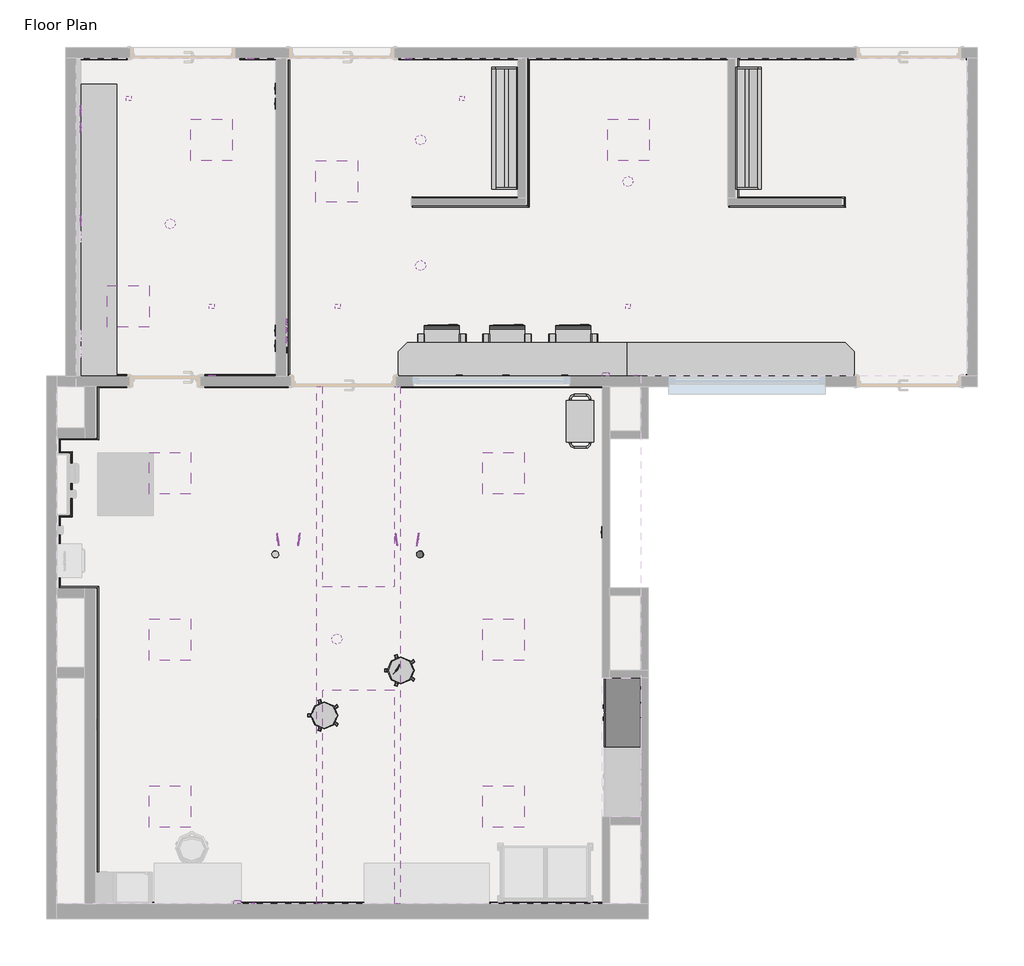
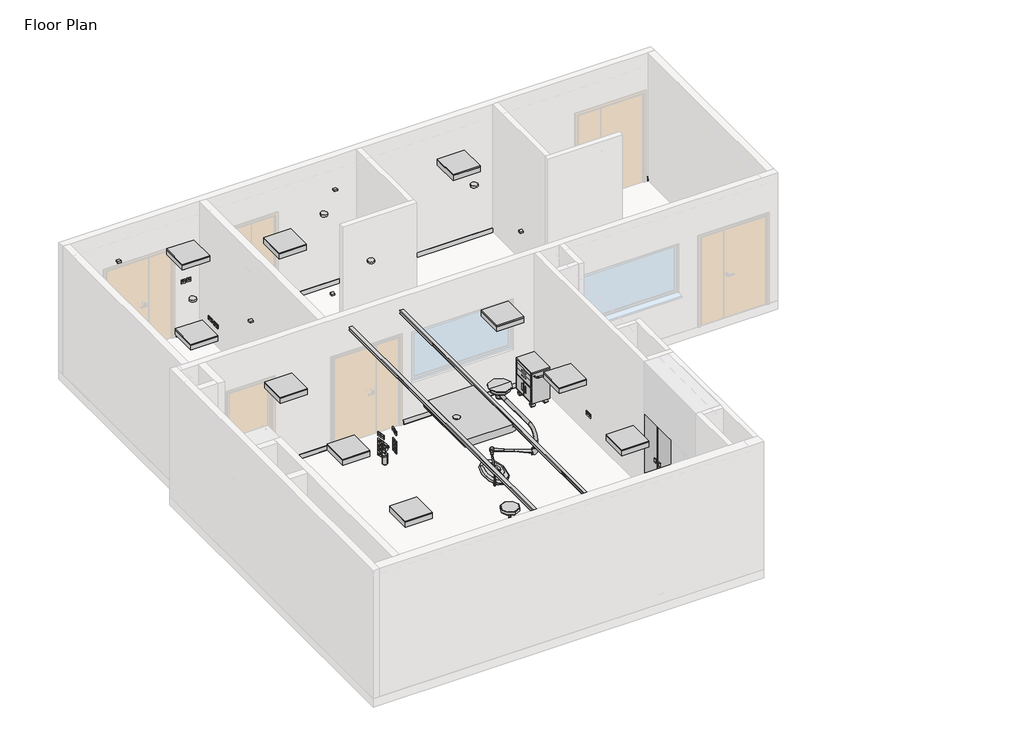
# One storey, part 2 of 2: 37 proxies, 30 flow terminals, 14 furniture elements, 10 light fixtures.
"""IFC4 building model written with IfcOpenShell, lengths in millimetres."""

from ifc_helpers import new_model, si_unit, origin, place, context, project, spatial, transform, mapped, element, save
from components import generic_models_1c4e6ef4, generic_models_4b609abf, electrical_fixtures_90023378, electrical_fixtures_e6a07013, electrical_fixtures_5073e38d, generic_models_4addcc0f, electrical_fixtures_c5f72a11, electrical_fixtures_e3963cad, bimhealth_electrical_data_point_v1_type_1_511d3d56, bimhealth_electrical_smoke_detector_v1_bimhealth_electrical_fe9fcb6c, bimhealth_exhaust_diffuser_v1_bimhealth_exhaust_diffuser_v1_c0e02c9f, med_light_med_light_ebe8f9ca, med_light_med_light_51e73a2f, flow_terminal_e4480bda, flow_terminal_962c3642, furniture_e5edc786, furniture_bcfc0295, furniture_9dfdc119, furniture_95308616, furniture_d395b82f, furniture_bd22f9ff, furniture_bb079bd4, furniture_e14fffc2, bimhealth_scrub_trough_v1_bimhealth_scrub_trough_v1_db082bb5, bimhealth_scrub_trough_v1_bimhealth_scrub_trough_v1_64e28580, bimhealth_trolley_mobile_cart_v1_bimhealth_trolley_mobile_f11bc73b, light_fixture_600x600mm_2_lamps_e1dca80e

model = new_model("IFC4")

# Units and contexts
model_context = context("Model", 3, world=origin())
ifc_project = project(units=[si_unit("LENGTHUNIT", "METRE", prefix="MILLI")], contexts=[model_context])

# Site, building, storey
site = spatial("IfcSite", under=ifc_project)
building = spatial("IfcBuilding", under=site)
storey = spatial("IfcBuildingStorey", under=building, Name="Floor Plan", Elevation=0.0)

# Proxies
placement = place(None, origin())
generic_models_shape = generic_models_1c4e6ef4(model_context)
element("IfcBuildingElementProxy", 1, Name="BIMHealth-Flowmeter_Suction-LOD2A-v1 : BIMHealth-Flowmeter_Suction-LOD2A-v1", ObjectType="BIMHealth-Flowmeter_Suction-LOD2A-v1 : BIMHealth-Flowmeter_Suction-LOD2A-v1", at=placement, inside=storey, context=model_context, shape_type="MappedRepresentation", body=[
    mapped(generic_models_shape, transform((19925.8408391, 2387.4266229, 300.0), x_axis=(0.48480962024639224, 0.8746197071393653, 0.0), y_axis=(-0.8746197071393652, 0.4848096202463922, 0.0), z_axis=(0.0, 0.0, 0.9999999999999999))),
])
generic_models_2_shape = generic_models_4b609abf(model_context)
element("IfcBuildingElementProxy", 2, Name="BIMHealth-Light_Switch-LOD2A-v1 : BIMHealth-Light_Switch-LOD2A-v1", ObjectType="BIMHealth-Light_Switch-LOD2A-v1 : BIMHealth-Light_Switch-LOD2A-v1", at=placement, inside=storey, context=model_context, shape_type="MappedRepresentation", body=[
    mapped(generic_models_2_shape, transform((17467.1336188, 9541.1029988, 0.0), x_axis=(-1.0000000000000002, 0.0, 0.0), y_axis=(0.0, -1.0000000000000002, 0.0), z_axis=(0.0, 0.0, 1.0))),
])
element("IfcBuildingElementProxy", 3, Name="BIMHealth-Light_Switch-LOD2A-v1 : BIMHealth-Light_Switch-LOD2A-v1", ObjectType="BIMHealth-Light_Switch-LOD2A-v1 : BIMHealth-Light_Switch-LOD2A-v1", at=placement, inside=storey, context=model_context, shape_type="MappedRepresentation", body=[
    mapped(generic_models_2_shape, transform((19742.1336188, 9541.1029988, 0.0), x_axis=(-1.0, 0.0, 0.0), y_axis=(0.0, -1.0, 0.0), z_axis=(0.0, 0.0, 1.0))),
])
element("IfcBuildingElementProxy", 4, Name="BIMHealth-Light_Switch-LOD2A-v1 : BIMHealth-Light_Switch-LOD2A-v1", ObjectType="BIMHealth-Light_Switch-LOD2A-v1 : BIMHealth-Light_Switch-LOD2A-v1", at=placement, inside=storey, context=model_context, shape_type="MappedRepresentation", body=[
    mapped(generic_models_2_shape, transform((16912.1336188, 4966.1026634, 0.0), x_axis=(1.0, 0.0, 0.0), y_axis=(0.0, 1.0, 0.0), z_axis=(0.0, 0.0, 1.0))),
])
element("IfcBuildingElementProxy", 5, Name="BIMHealth-Light_Switch-LOD2A-v1 : BIMHealth-Light_Switch-LOD2A-v1", ObjectType="BIMHealth-Light_Switch-LOD2A-v1 : BIMHealth-Light_Switch-LOD2A-v1", at=placement, inside=storey, context=model_context, shape_type="MappedRepresentation", body=[
    mapped(generic_models_2_shape, transform((17982.1336188, 5486.1026634, 0.0), x_axis=(0.0, -1.0000000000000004, 0.0), y_axis=(1.0000000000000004, 0.0, 0.0), z_axis=(0.0, 0.0, 1.0))),
])
element("IfcBuildingElementProxy", 6, Name="BIMHealth-Light_Switch-LOD2A-v1 : BIMHealth-Light_Switch-LOD2A-v1", ObjectType="BIMHealth-Light_Switch-LOD2A-v1 : BIMHealth-Light_Switch-LOD2A-v1", at=placement, inside=storey, context=model_context, shape_type="MappedRepresentation", body=[
    mapped(generic_models_2_shape, transform((17982.1336188, 5626.1026634, 0.0), x_axis=(0.0, -1.0, 0.0), y_axis=(1.0, 0.0, 0.0), z_axis=(0.0, 0.0, 1.0))),
])
element("IfcBuildingElementProxy", 7, Name="BIMHealth-Light_Switch-LOD2A-v1 : BIMHealth-Light_Switch-LOD2A-v1", ObjectType="BIMHealth-Light_Switch-LOD2A-v1 : BIMHealth-Light_Switch-LOD2A-v1", at=placement, inside=storey, context=model_context, shape_type="MappedRepresentation", body=[
    mapped(generic_models_2_shape, transform((17982.1336188, 5746.1026634, 0.0), x_axis=(0.0, -1.0, 0.0), y_axis=(1.0, 0.0, 0.0), z_axis=(0.0, 0.0, 1.0))),
])
electrical_fixtures_shape = electrical_fixtures_90023378(model_context)
element("IfcBuildingElementProxy", 8, Name="BIMHealth-Fish_Switch-LOD2A-v1 : BIMHealth-Fish_Switch-LOD2A-v1", ObjectType="BIMHealth-Fish_Switch-LOD2A-v1 : BIMHealth-Fish_Switch-LOD2A-v1", at=placement, inside=storey, context=model_context, shape_type="MappedRepresentation", body=[
    mapped(electrical_fixtures_shape, transform((17977.1336188, 5341.1026634, 0.0), x_axis=(0.0, -1.0, 0.0), y_axis=(1.0, 0.0, 0.0), z_axis=(0.0, 0.0, 1.0))),
])
element("IfcBuildingElementProxy", 9, Name="BIMHealth-Fish_Switch-LOD2A-v1 : BIMHealth-Fish_Switch-LOD2A-v1", ObjectType="BIMHealth-Fish_Switch-LOD2A-v1 : BIMHealth-Fish_Switch-LOD2A-v1", at=placement, inside=storey, context=model_context, shape_type="MappedRepresentation", body=[
    mapped(electrical_fixtures_shape, transform((17597.1336188, 9541.1029988, 0.0), x_axis=(-1.0, 0.0, 0.0), y_axis=(0.0, -1.0, 0.0), z_axis=(0.0, 0.0, 1.0))),
])
element("IfcBuildingElementProxy", 10, Name="BIMHealth-Fish_Switch-LOD2A-v1 : BIMHealth-Fish_Switch-LOD2A-v1", ObjectType="BIMHealth-Fish_Switch-LOD2A-v1 : BIMHealth-Fish_Switch-LOD2A-v1", at=placement, inside=storey, context=model_context, shape_type="MappedRepresentation", body=[
    mapped(electrical_fixtures_shape, transform((19887.1336188, 9541.1029988, 0.0), x_axis=(-1.0, 0.0, 0.0), y_axis=(0.0, -1.0, 0.0), z_axis=(0.0, 0.0, 1.0))),
])
electrical_fixtures_2_shape = electrical_fixtures_e6a07013(model_context)
element("IfcBuildingElementProxy", 11, Name="BIMHealth-Code_Blue-Non_Wall_Mounted-LOD2A-v1 : BIMHealth-Code_Blue-Non_Wall_Mounted-LOD2A-v1", ObjectType="BIMHealth-Code_Blue-Non_Wall_Mounted-LOD2A-v1 : BIMHealth-Code_Blue-Non_Wall_Mounted-LOD2A-v1", at=placement, inside=storey, context=model_context, shape_type="MappedRepresentation", body=[
    mapped(electrical_fixtures_2_shape, transform((22582.1336188, 4966.1026634, 0.0), x_axis=(-1.0000000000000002, 0.0, 0.0), y_axis=(0.0, -1.0000000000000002, 0.0), z_axis=(0.0, 0.0, 1.0))),
])
element("IfcBuildingElementProxy", 12, Name="BIMHealth-Code_Blue-Non_Wall_Mounted-LOD2A-v1 : BIMHealth-Code_Blue-Non_Wall_Mounted-LOD2A-v1", ObjectType="BIMHealth-Code_Blue-Non_Wall_Mounted-LOD2A-v1 : BIMHealth-Code_Blue-Non_Wall_Mounted-LOD2A-v1", at=placement, inside=storey, context=model_context, shape_type="MappedRepresentation", body=[
    mapped(electrical_fixtures_2_shape, transform((17278.7884839, -2633.8974181, 5.5970517), x_axis=(-1.0000000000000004, 0.0, 0.0), y_axis=(0.0, -1.0000000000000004, 0.0), z_axis=(0.0, 0.0, 1.0))),
])
electrical_fixtures_3_shape = electrical_fixtures_5073e38d(model_context)
element("IfcBuildingElementProxy", 13, Name="BIMHealth-Cancel_Button-Non_Wall_Mounted-LOD2A-v1 : BIMHealth-Cancel_Button-Non_Wall_Mounted-LOD2A-v1", ObjectType="BIMHealth-Cancel_Button-Non_Wall_Mounted-LOD2A-v1 : BIMHealth-Cancel_Button-Non_Wall_Mounted-LOD2A-v1", at=placement, inside=storey, context=model_context, shape_type="MappedRepresentation", body=[
    mapped(electrical_fixtures_3_shape, transform((23029.5477239, 4966.1026634, 0.0), x_axis=(-1.0000000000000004, 0.0, 0.0), y_axis=(0.0, -1.0000000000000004, 0.0), z_axis=(0.0, 0.0, 1.0))),
])
element("IfcBuildingElementProxy", 14, Name="BIMHealth-Cancel_Button-Non_Wall_Mounted-LOD2A-v1 : BIMHealth-Cancel_Button-Non_Wall_Mounted-LOD2A-v1", ObjectType="BIMHealth-Cancel_Button-Non_Wall_Mounted-LOD2A-v1 : BIMHealth-Cancel_Button-Non_Wall_Mounted-LOD2A-v1", at=placement, inside=storey, context=model_context, shape_type="MappedRepresentation", body=[
    mapped(electrical_fixtures_3_shape, transform((17529.3865159, -2633.8974181, 5.5970517), x_axis=(-1.0000000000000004, 0.0, 0.0), y_axis=(0.0, -1.0000000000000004, 0.0), z_axis=(0.0, 0.0, 1.0))),
])
generic_models_3_shape = generic_models_4addcc0f(model_context)
element("IfcBuildingElementProxy", 15, Name="BIMHealth-Flowmeter_Suction-LOD2A-v1 : BIMHealth-Flowmeter_Suction-LOD2A-v1", ObjectType="BIMHealth-Flowmeter_Suction-LOD2A-v1 : BIMHealth-Flowmeter_Suction-LOD2A-v1", at=placement, inside=storey, context=model_context, shape_type="MappedRepresentation", body=[
    mapped(generic_models_3_shape, transform((17807.1607284, 2387.4266229, 300.0), x_axis=(-0.4848096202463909, 0.874619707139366, 0.0), y_axis=(-0.8746197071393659, -0.48480962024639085, 0.0), z_axis=(0.0, 0.0, 0.9999999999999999))),
])
electrical_fixtures_4_shape = electrical_fixtures_c5f72a11(model_context)
element("IfcBuildingElementProxy", 16, Name="BIMHealth-Electrical_Data_Point-Non_Wall_Hosted-LOD2A-v1 : BIMHealth-Electrical_Data_Point-Non_Wall_Hosted-LOD2A-v1", ObjectType="BIMHealth-Electrical_Data_Point-Non_Wall_Hosted-LOD2A-v1 : BIMHealth-Electrical_Data_Point-Non_Wall_Hosted-LOD2A-v1", at=placement, inside=storey, context=model_context, shape_type="MappedRepresentation", body=[
    mapped(electrical_fixtures_4_shape, transform((17874.3128075, 2566.4536654, 900.0), x_axis=(-0.14499274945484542, 0.989432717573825, 0.0), y_axis=(-0.9894327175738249, -0.1449927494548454, 0.0), z_axis=(0.0, 0.0, 0.9999999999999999))),
])
element("IfcBuildingElementProxy", 17, Name="BIMHealth-Electrical_Data_Point-Non_Wall_Hosted-LOD2A-v1 : BIMHealth-Electrical_Data_Point-Non_Wall_Hosted-LOD2A-v1", ObjectType="BIMHealth-Electrical_Data_Point-Non_Wall_Hosted-LOD2A-v1 : BIMHealth-Electrical_Data_Point-Non_Wall_Hosted-LOD2A-v1", at=placement, inside=storey, context=model_context, shape_type="MappedRepresentation", body=[
    mapped(electrical_fixtures_4_shape, transform((17859.6039766, 2663.586799, 900.0), x_axis=(-0.14499274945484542, 0.989432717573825, 0.0), y_axis=(-0.9894327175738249, -0.1449927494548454, 0.0), z_axis=(0.0, 0.0, 0.9999999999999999))),
])
element("IfcBuildingElementProxy", 18, Name="BIMHealth-Electrical_Data_Point-Non_Wall_Hosted-LOD2A-v1 : BIMHealth-Electrical_Data_Point-Non_Wall_Hosted-LOD2A-v1", ObjectType="BIMHealth-Electrical_Data_Point-Non_Wall_Hosted-LOD2A-v1 : BIMHealth-Electrical_Data_Point-Non_Wall_Hosted-LOD2A-v1", at=placement, inside=storey, context=model_context, shape_type="MappedRepresentation", body=[
    mapped(electrical_fixtures_4_shape, transform((19581.1127277, 2563.9536654, 900.0), x_axis=(-0.14499274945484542, 0.989432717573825, 0.0), y_axis=(-0.9894327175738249, -0.1449927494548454, 0.0), z_axis=(0.0, 0.0, 0.9999999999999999))),
])
element("IfcBuildingElementProxy", 19, Name="BIMHealth-Electrical_Data_Point-Non_Wall_Hosted-LOD2A-v1 : BIMHealth-Electrical_Data_Point-Non_Wall_Hosted-LOD2A-v1", ObjectType="BIMHealth-Electrical_Data_Point-Non_Wall_Hosted-LOD2A-v1 : BIMHealth-Electrical_Data_Point-Non_Wall_Hosted-LOD2A-v1", at=placement, inside=storey, context=model_context, shape_type="MappedRepresentation", body=[
    mapped(electrical_fixtures_4_shape, transform((19566.4038967, 2661.086799, 900.0), x_axis=(-0.14499274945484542, 0.989432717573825, 0.0), y_axis=(-0.9894327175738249, -0.1449927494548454, 0.0), z_axis=(0.0, 0.0, 0.9999999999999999))),
])
electrical_fixtures_5_shape = electrical_fixtures_e3963cad(model_context)
element("IfcBuildingElementProxy", 20, Name="BIMHealth-Electrical_Data_Point-Non_Wall_Hosted-LOD2A-v1 : BIMHealth-Electrical_Data_Point-Non_Wall_Hosted-LOD2A-v1", ObjectType="BIMHealth-Electrical_Data_Point-Non_Wall_Hosted-LOD2A-v1 : BIMHealth-Electrical_Data_Point-Non_Wall_Hosted-LOD2A-v1", at=placement, inside=storey, context=model_context, shape_type="MappedRepresentation", body=[
    mapped(electrical_fixtures_5_shape, transform((19863.68876, 2563.9536654, 900.0), x_axis=(0.14499274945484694, 0.9894327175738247, 0.0), y_axis=(-0.9894327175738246, 0.14499274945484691, 0.0), z_axis=(0.0, 0.0, 0.9999999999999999))),
])
element("IfcBuildingElementProxy", 21, Name="BIMHealth-Electrical_Data_Point-Non_Wall_Hosted-LOD2A-v1 : BIMHealth-Electrical_Data_Point-Non_Wall_Hosted-LOD2A-v1", ObjectType="BIMHealth-Electrical_Data_Point-Non_Wall_Hosted-LOD2A-v1 : BIMHealth-Electrical_Data_Point-Non_Wall_Hosted-LOD2A-v1", at=placement, inside=storey, context=model_context, shape_type="MappedRepresentation", body=[
    mapped(electrical_fixtures_5_shape, transform((19878.397591, 2661.086799, 900.0), x_axis=(0.14499274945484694, 0.9894327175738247, 0.0), y_axis=(-0.9894327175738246, 0.14499274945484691, 0.0), z_axis=(0.0, 0.0, 0.9999999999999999))),
])
element("IfcBuildingElementProxy", 22, Name="BIMHealth-Electrical_Data_Point-Non_Wall_Hosted-LOD2A-v1 : BIMHealth-Electrical_Data_Point-Non_Wall_Hosted-LOD2A-v1", ObjectType="BIMHealth-Electrical_Data_Point-Non_Wall_Hosted-LOD2A-v1 : BIMHealth-Electrical_Data_Point-Non_Wall_Hosted-LOD2A-v1", at=placement, inside=storey, context=model_context, shape_type="MappedRepresentation", body=[
    mapped(electrical_fixtures_5_shape, transform((18150.5081056, 2566.4536654, 900.0), x_axis=(0.14499274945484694, 0.9894327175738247, 0.0), y_axis=(-0.9894327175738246, 0.14499274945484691, 0.0), z_axis=(0.0, 0.0, 0.9999999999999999))),
])
element("IfcBuildingElementProxy", 23, Name="BIMHealth-Electrical_Data_Point-Non_Wall_Hosted-LOD2A-v1 : BIMHealth-Electrical_Data_Point-Non_Wall_Hosted-LOD2A-v1", ObjectType="BIMHealth-Electrical_Data_Point-Non_Wall_Hosted-LOD2A-v1 : BIMHealth-Electrical_Data_Point-Non_Wall_Hosted-LOD2A-v1", at=placement, inside=storey, context=model_context, shape_type="MappedRepresentation", body=[
    mapped(electrical_fixtures_5_shape, transform((18165.2169366, 2663.586799, 900.0), x_axis=(0.14499274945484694, 0.9894327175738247, 0.0), y_axis=(-0.9894327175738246, 0.14499274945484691, 0.0), z_axis=(0.0, 0.0, 0.9999999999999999))),
])
bimhealth_electrical_data_point_v1_type_1_shape = bimhealth_electrical_data_point_v1_type_1_511d3d56(model_context)
element("IfcBuildingElementProxy", 24, Name="BIMHealth-Electrical-Data_Point-v1 : Type 1", ObjectType="BIMHealth-Electrical-Data_Point-v1 : Type 1", at=placement, inside=storey, context=model_context, shape_type="MappedRepresentation", body=[
    mapped(bimhealth_electrical_data_point_v1_type_1_shape, transform((20302.1336188, 4891.1026634, 0.0), x_axis=(1.0, 0.0, 0.0), y_axis=(0.0, 1.0, 0.0), z_axis=(0.0, 0.0, 1.0))),
])
element("IfcBuildingElementProxy", 25, Name="BIMHealth-Electrical-Data_Point-v1 : Type 1", ObjectType="BIMHealth-Electrical-Data_Point-v1 : Type 1", at=placement, inside=storey, context=model_context, shape_type="MappedRepresentation", body=[
    mapped(bimhealth_electrical_data_point_v1_type_1_shape, transform((20977.1336188, 4891.1026634, 0.0), x_axis=(1.0, 0.0, 0.0), y_axis=(0.0, 1.0, 0.0), z_axis=(0.0, 0.0, 1.0))),
])
element("IfcBuildingElementProxy", 26, Name="BIMHealth-Electrical-Data_Point-v1 : Type 1", ObjectType="BIMHealth-Electrical-Data_Point-v1 : Type 1", at=placement, inside=storey, context=model_context, shape_type="MappedRepresentation", body=[
    mapped(bimhealth_electrical_data_point_v1_type_1_shape, transform((21822.1336188, 4891.1026634, 0.0), x_axis=(1.0, 0.0, 0.0), y_axis=(0.0, 1.0, 0.0), z_axis=(0.0, 0.0, 1.0))),
])
bimhealth_electrical_smoke_detector_v1_bimhealth_electrical_shape = bimhealth_electrical_smoke_detector_v1_bimhealth_electrical_fe9fcb6c(model_context)
element("IfcBuildingElementProxy", 27, Name="BIMHealth-Electrical-Smoke_Detector-v1 : BIMHealth-Electrical-Smoke_Detector-v1", ObjectType="BIMHealth-Electrical-Smoke_Detector-v1 : BIMHealth-Electrical-Smoke_Detector-v1", at=placement, inside=storey, context=model_context, shape_type="MappedRepresentation", body=[
    mapped(bimhealth_electrical_smoke_detector_v1_bimhealth_electrical_shape, transform((18710.834619, 1177.4095416, 261.6), x_axis=(1.0, 0.0, 0.0), y_axis=(0.0, 1.0, 0.0), z_axis=(0.0, 0.0, 1.0))),
])
element("IfcBuildingElementProxy", 28, Name="BIMHealth-Electrical-Smoke_Detector-v1 : BIMHealth-Electrical-Smoke_Detector-v1", ObjectType="BIMHealth-Electrical-Smoke_Detector-v1 : BIMHealth-Electrical-Smoke_Detector-v1", at=placement, inside=storey, context=model_context, shape_type="MappedRepresentation", body=[
    mapped(bimhealth_electrical_smoke_detector_v1_bimhealth_electrical_shape, transform((16312.333647, 7156.1001399, 261.6), x_axis=(1.0, 0.0, 0.0), y_axis=(0.0, 1.0, 0.0), z_axis=(0.0, 0.0, 1.0))),
])
element("IfcBuildingElementProxy", 29, Name="BIMHealth-Electrical-Smoke_Detector-v1 : BIMHealth-Electrical-Smoke_Detector-v1", ObjectType="BIMHealth-Electrical-Smoke_Detector-v1 : BIMHealth-Electrical-Smoke_Detector-v1", at=placement, inside=storey, context=model_context, shape_type="MappedRepresentation", body=[
    mapped(bimhealth_electrical_smoke_detector_v1_bimhealth_electrical_shape, transform((19917.1339303, 8366.1001399, 261.6), x_axis=(1.0, 0.0, 0.0), y_axis=(0.0, 1.0, 0.0), z_axis=(0.0, 0.0, 1.0))),
])
element("IfcBuildingElementProxy", 30, Name="BIMHealth-Electrical-Smoke_Detector-v1 : BIMHealth-Electrical-Smoke_Detector-v1", ObjectType="BIMHealth-Electrical-Smoke_Detector-v1 : BIMHealth-Electrical-Smoke_Detector-v1", at=placement, inside=storey, context=model_context, shape_type="MappedRepresentation", body=[
    mapped(bimhealth_electrical_smoke_detector_v1_bimhealth_electrical_shape, transform((19917.1339303, 6556.1001399, 261.6), x_axis=(1.0, 0.0, 0.0), y_axis=(0.0, 1.0, 0.0), z_axis=(0.0, 0.0, 1.0))),
])
element("IfcBuildingElementProxy", 31, Name="BIMHealth-Electrical-Smoke_Detector-v1 : BIMHealth-Electrical-Smoke_Detector-v1", ObjectType="BIMHealth-Electrical-Smoke_Detector-v1 : BIMHealth-Electrical-Smoke_Detector-v1", at=placement, inside=storey, context=model_context, shape_type="MappedRepresentation", body=[
    mapped(bimhealth_electrical_smoke_detector_v1_bimhealth_electrical_shape, transform((22902.333779, 7766.1001399, 261.6), x_axis=(1.0, 0.0, 0.0), y_axis=(0.0, 1.0, 0.0), z_axis=(0.0, 0.0, 1.0))),
])
bimhealth_exhaust_diffuser_v1_bimhealth_exhaust_diffuser_v1_shape = bimhealth_exhaust_diffuser_v1_bimhealth_exhaust_diffuser_v1_c0e02c9f(model_context)
element("IfcBuildingElementProxy", 32, Name="BIMHealth-Exhaust_Diffuser-v1 : BIMHealth-Exhaust_Diffuser-v1", ObjectType="BIMHealth-Exhaust_Diffuser-v1 : BIMHealth-Exhaust_Diffuser-v1", at=placement, inside=storey, context=model_context, shape_type="MappedRepresentation", body=[
    mapped(bimhealth_exhaust_diffuser_v1_bimhealth_exhaust_diffuser_v1_shape, transform((16912.1336188, 5966.1026634, 261.6), x_axis=(1.0, 0.0, 0.0), y_axis=(0.0, 1.0, 0.0), z_axis=(0.0, 0.0, 1.0))),
])
element("IfcBuildingElementProxy", 33, Name="BIMHealth-Exhaust_Diffuser-v1 : BIMHealth-Exhaust_Diffuser-v1", ObjectType="BIMHealth-Exhaust_Diffuser-v1 : BIMHealth-Exhaust_Diffuser-v1", at=placement, inside=storey, context=model_context, shape_type="MappedRepresentation", body=[
    mapped(bimhealth_exhaust_diffuser_v1_bimhealth_exhaust_diffuser_v1_shape, transform((18722.1336188, 5966.1026634, 261.6), x_axis=(1.0, 0.0, 0.0), y_axis=(0.0, 1.0, 0.0), z_axis=(0.0, 0.0, 1.0))),
])
element("IfcBuildingElementProxy", 34, Name="BIMHealth-Extract_Air-v1 : BIMHealth-Extract_Air-v1", ObjectType="BIMHealth-Extract_Air-v1 : BIMHealth-Extract_Air-v1", at=placement, inside=storey, context=model_context, shape_type="MappedRepresentation", body=[
    mapped(bimhealth_exhaust_diffuser_v1_bimhealth_exhaust_diffuser_v1_shape, transform((20512.333779, 8966.1026634, 261.6), x_axis=(1.0, 0.0, 0.0), y_axis=(0.0, 1.0, 0.0), z_axis=(0.0, 0.0, 1.0))),
])
element("IfcBuildingElementProxy", 35, Name="BIMHealth-Extract_Air-v1 : BIMHealth-Extract_Air-v1", ObjectType="BIMHealth-Extract_Air-v1 : BIMHealth-Extract_Air-v1", at=placement, inside=storey, context=model_context, shape_type="MappedRepresentation", body=[
    mapped(bimhealth_exhaust_diffuser_v1_bimhealth_exhaust_diffuser_v1_shape, transform((15712.333779, 8966.1026634, 261.6), x_axis=(1.0, 0.0, 0.0), y_axis=(0.0, 1.0, 0.0), z_axis=(0.0, 0.0, 1.0))),
])
element("IfcBuildingElementProxy", 36, Name="BIMHealth-Supply_Air-v1 : BIMHealth-Supply_Air-v1", ObjectType="BIMHealth-Supply_Air-v1 : BIMHealth-Supply_Air-v1", at=placement, inside=storey, context=model_context, shape_type="MappedRepresentation", body=[
    mapped(bimhealth_exhaust_diffuser_v1_bimhealth_exhaust_diffuser_v1_shape, transform((22902.333779, 5966.1026634, 261.6), x_axis=(1.0, 0.0, 0.0), y_axis=(0.0, 1.0, 0.0), z_axis=(0.0, 0.0, 1.0))),
])
med_light_med_light_shape = med_light_med_light_ebe8f9ca(model_context)
med_light_med_light_2_shape = med_light_med_light_51e73a2f(model_context)
element("IfcBuildingElementProxy", 37, Name="Med light : Med light", ObjectType="Med light : Med light", at=placement, inside=storey, context=model_context, shape_type="MappedRepresentation", body=[
    mapped(med_light_med_light_shape, transform((20032.333647, 1806.1036573, 275.3213976), x_axis=(-1.0, 0.0, 0.0), y_axis=(0.0, -1.0, 0.0), z_axis=(0.0, 0.0, 1.0))),
    mapped(med_light_med_light_2_shape, transform((20032.333647, 1806.1036573, 275.3213976), x_axis=(-1.0, 0.0, 0.0), y_axis=(0.0, -1.0, 0.0), z_axis=(0.0, 0.0, 1.0))),
])

# Flow terminals
flow_terminal_shape = flow_terminal_e4480bda(model_context)
element("IfcFlowTerminal", 38, ObjectType="BIMHealth-Electrical_Double_Socket-Non_Wall_Mounted_Realistic-LOD2A-v1 : BIMHealth-Electrical_Double_Socket-Non_Wall_Mounted_Realistic-LOD2A-v1", at=placement, inside=storey, context=model_context, shape_type="MappedRepresentation", body=[
    mapped(flow_terminal_shape, transform((22532.1336188, 2716.1029142, 0.0), x_axis=(0.0, 1.0000000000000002, 0.0), y_axis=(-1.0000000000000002, 0.0, 0.0), z_axis=(0.0, 0.0, 1.0))),
])
element("IfcFlowTerminal", 39, ObjectType="BIMHealth-Electrical_Double_Socket-Non_Wall_Mounted_Realistic-LOD2A-v1 : BIMHealth-Electrical_Double_Socket-Non_Wall_Mounted_Realistic-LOD2A-v1", at=placement, inside=storey, context=model_context, shape_type="MappedRepresentation", body=[
    mapped(flow_terminal_shape, transform((19932.1336188, 4966.1026634, 0.0), x_axis=(1.0, 0.0, 0.0), y_axis=(0.0, 1.0, 0.0), z_axis=(0.0, 0.0, 1.0))),
])
element("IfcFlowTerminal", 40, ObjectType="BIMHealth-Electrical_Double_Socket-Non_Wall_Mounted_Realistic-LOD2A-v1 : BIMHealth-Electrical_Double_Socket-Non_Wall_Mounted_Realistic-LOD2A-v1", at=placement, inside=storey, context=model_context, shape_type="MappedRepresentation", body=[
    mapped(flow_terminal_shape, transform((20132.1336188, 4966.1026634, 0.0), x_axis=(1.0, 0.0, 0.0), y_axis=(0.0, 1.0, 0.0), z_axis=(0.0, 0.0, 1.0))),
])
element("IfcFlowTerminal", 41, ObjectType="BIMHealth-Electrical_Double_Socket-Non_Wall_Mounted_Realistic-LOD2A-v1 : BIMHealth-Electrical_Double_Socket-Non_Wall_Mounted_Realistic-LOD2A-v1", at=placement, inside=storey, context=model_context, shape_type="MappedRepresentation", body=[
    mapped(flow_terminal_shape, transform((20332.1336188, 4966.1026634, 0.0), x_axis=(1.0, 0.0, 0.0), y_axis=(0.0, 1.0, 0.0), z_axis=(0.0, 0.0, 1.0))),
])
element("IfcFlowTerminal", 42, ObjectType="BIMHealth-Electrical_Double_Socket-Non_Wall_Mounted_Realistic-LOD2A-v1 : BIMHealth-Electrical_Double_Socket-Non_Wall_Mounted_Realistic-LOD2A-v1", at=placement, inside=storey, context=model_context, shape_type="MappedRepresentation", body=[
    mapped(flow_terminal_shape, transform((20832.1336188, 4966.1026634, 0.0), x_axis=(1.0, 0.0, 0.0), y_axis=(0.0, 1.0, 0.0), z_axis=(0.0, 0.0, 1.0))),
])
element("IfcFlowTerminal", 43, ObjectType="BIMHealth-Electrical_Double_Socket-Non_Wall_Mounted_Realistic-LOD2A-v1 : BIMHealth-Electrical_Double_Socket-Non_Wall_Mounted_Realistic-LOD2A-v1", at=placement, inside=storey, context=model_context, shape_type="MappedRepresentation", body=[
    mapped(flow_terminal_shape, transform((21032.1336188, 4966.1026634, 0.0), x_axis=(1.0, 0.0, 0.0), y_axis=(0.0, 1.0, 0.0), z_axis=(0.0, 0.0, 1.0))),
])
element("IfcFlowTerminal", 44, ObjectType="BIMHealth-Electrical_Double_Socket-Non_Wall_Mounted_Realistic-LOD2A-v1 : BIMHealth-Electrical_Double_Socket-Non_Wall_Mounted_Realistic-LOD2A-v1", at=placement, inside=storey, context=model_context, shape_type="MappedRepresentation", body=[
    mapped(flow_terminal_shape, transform((21662.1336188, 4966.1026634, 0.0), x_axis=(1.0, 0.0, 0.0), y_axis=(0.0, 1.0, 0.0), z_axis=(0.0, 0.0, 1.0))),
])
element("IfcFlowTerminal", 45, ObjectType="BIMHealth-Electrical_Double_Socket-Non_Wall_Mounted_Realistic-LOD2A-v1 : BIMHealth-Electrical_Double_Socket-Non_Wall_Mounted_Realistic-LOD2A-v1", at=placement, inside=storey, context=model_context, shape_type="MappedRepresentation", body=[
    mapped(flow_terminal_shape, transform((21862.1336188, 4966.1026634, 0.0), x_axis=(1.0, 0.0, 0.0), y_axis=(0.0, 1.0, 0.0), z_axis=(0.0, 0.0, 1.0))),
])
element("IfcFlowTerminal", 46, ObjectType="BIMHealth-Electrical_Double_Socket-Non_Wall_Mounted_Realistic-LOD2A-v1 : BIMHealth-Electrical_Double_Socket-Non_Wall_Mounted_Realistic-LOD2A-v1", at=placement, inside=storey, context=model_context, shape_type="MappedRepresentation", body=[
    mapped(flow_terminal_shape, transform((21462.1336188, 4966.1026634, 0.0), x_axis=(1.0, 0.0, 0.0), y_axis=(0.0, 1.0, 0.0), z_axis=(0.0, 0.0, 1.0))),
])
element("IfcFlowTerminal", 47, ObjectType="BIMHealth-Electrical_Double_Socket-Non_Wall_Mounted_Realistic-LOD2A-v1 : BIMHealth-Electrical_Double_Socket-Non_Wall_Mounted_Realistic-LOD2A-v1", at=placement, inside=storey, context=model_context, shape_type="MappedRepresentation", body=[
    mapped(flow_terminal_shape, transform((17832.1336188, 5401.1029988, 0.0), x_axis=(0.0, 1.0000000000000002, 0.0), y_axis=(-1.0000000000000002, 0.0, 0.0), z_axis=(0.0, 0.0, 1.0))),
])
element("IfcFlowTerminal", 48, ObjectType="BIMHealth-Electrical_Double_Socket-Non_Wall_Mounted_Realistic-LOD2A-v1 : BIMHealth-Electrical_Double_Socket-Non_Wall_Mounted_Realistic-LOD2A-v1", at=placement, inside=storey, context=model_context, shape_type="MappedRepresentation", body=[
    mapped(flow_terminal_shape, transform((17832.1336188, 5621.1029988, 0.0), x_axis=(0.0, 1.0000000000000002, 0.0), y_axis=(-1.0000000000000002, 0.0, 0.0), z_axis=(0.0, 0.0, 1.0))),
])
element("IfcFlowTerminal", 49, ObjectType="BIMHealth-Electrical_Double_Socket-Non_Wall_Mounted_Realistic-LOD2A-v1 : BIMHealth-Electrical_Double_Socket-Non_Wall_Mounted_Realistic-LOD2A-v1", at=placement, inside=storey, context=model_context, shape_type="MappedRepresentation", body=[
    mapped(flow_terminal_shape, transform((19870.436971, 2615.2964091, 750.0), x_axis=(-0.1564344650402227, -0.9876883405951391, 0.0), y_axis=(0.987688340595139, -0.15643446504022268, 0.0), z_axis=(0.0, 0.0, 0.9999999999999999))),
])
element("IfcFlowTerminal", 50, ObjectType="BIMHealth-Electrical_Double_Socket-Non_Wall_Mounted_Realistic-LOD2A-v1 : BIMHealth-Electrical_Double_Socket-Non_Wall_Mounted_Realistic-LOD2A-v1", at=placement, inside=storey, context=model_context, shape_type="MappedRepresentation", body=[
    mapped(flow_terminal_shape, transform((19870.436971, 2615.2964091, 850.0), x_axis=(-0.1564344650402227, -0.9876883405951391, 0.0), y_axis=(0.987688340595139, -0.15643446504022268, 0.0), z_axis=(0.0, 0.0, 0.9999999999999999))),
])
element("IfcFlowTerminal", 51, ObjectType="BIMHealth-Electrical_Double_Socket-Non_Wall_Mounted_Realistic-LOD2A-v1 : BIMHealth-Electrical_Double_Socket-Non_Wall_Mounted_Realistic-LOD2A-v1", at=placement, inside=storey, context=model_context, shape_type="MappedRepresentation", body=[
    mapped(flow_terminal_shape, transform((19870.436971, 2615.2964091, 950.0), x_axis=(-0.1564344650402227, -0.9876883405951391, 0.0), y_axis=(0.987688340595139, -0.15643446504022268, 0.0), z_axis=(0.0, 0.0, 0.9999999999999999))),
])
element("IfcFlowTerminal", 52, ObjectType="BIMHealth-Electrical_Double_Socket-Non_Wall_Mounted_Realistic-LOD2A-v1 : BIMHealth-Electrical_Double_Socket-Non_Wall_Mounted_Realistic-LOD2A-v1", at=placement, inside=storey, context=model_context, shape_type="MappedRepresentation", body=[
    mapped(flow_terminal_shape, transform((19870.436971, 2615.2964091, 1050.0), x_axis=(-0.1564344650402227, -0.9876883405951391, 0.0), y_axis=(0.987688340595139, -0.15643446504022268, 0.0), z_axis=(0.0, 0.0, 0.9999999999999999))),
])
element("IfcFlowTerminal", 53, ObjectType="BIMHealth-Electrical_Double_Socket-Non_Wall_Mounted_Realistic-LOD2A-v1 : BIMHealth-Electrical_Double_Socket-Non_Wall_Mounted_Realistic-LOD2A-v1", at=placement, inside=storey, context=model_context, shape_type="MappedRepresentation", body=[
    mapped(flow_terminal_shape, transform((19572.185268, 2613.2084382, 750.0), x_axis=(-0.1218693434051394, 0.9925461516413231, 0.0), y_axis=(-0.992546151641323, -0.12186934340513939, 0.0), z_axis=(0.0, 0.0, 0.9999999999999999))),
])
element("IfcFlowTerminal", 54, ObjectType="BIMHealth-Electrical_Double_Socket-Non_Wall_Mounted_Realistic-LOD2A-v1 : BIMHealth-Electrical_Double_Socket-Non_Wall_Mounted_Realistic-LOD2A-v1", at=placement, inside=storey, context=model_context, shape_type="MappedRepresentation", body=[
    mapped(flow_terminal_shape, transform((19572.185268, 2613.2084382, 850.0), x_axis=(-0.1218693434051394, 0.9925461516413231, 0.0), y_axis=(-0.992546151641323, -0.12186934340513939, 0.0), z_axis=(0.0, 0.0, 0.9999999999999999))),
])
element("IfcFlowTerminal", 55, ObjectType="BIMHealth-Electrical_Double_Socket-Non_Wall_Mounted_Realistic-LOD2A-v1 : BIMHealth-Electrical_Double_Socket-Non_Wall_Mounted_Realistic-LOD2A-v1", at=placement, inside=storey, context=model_context, shape_type="MappedRepresentation", body=[
    mapped(flow_terminal_shape, transform((19572.185268, 2613.2084382, 950.0), x_axis=(-0.1218693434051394, 0.9925461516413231, 0.0), y_axis=(-0.992546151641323, -0.12186934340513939, 0.0), z_axis=(0.0, 0.0, 0.9999999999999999))),
])
element("IfcFlowTerminal", 56, ObjectType="BIMHealth-Electrical_Double_Socket-Non_Wall_Mounted_Realistic-LOD2A-v1 : BIMHealth-Electrical_Double_Socket-Non_Wall_Mounted_Realistic-LOD2A-v1", at=placement, inside=storey, context=model_context, shape_type="MappedRepresentation", body=[
    mapped(flow_terminal_shape, transform((15017.333647, 7206.1026634, 750.0), x_axis=(0.0, -0.9999999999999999, 0.0), y_axis=(0.9999999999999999, 0.0, 0.0), z_axis=(0.0, 0.0, 1.0))),
])
element("IfcFlowTerminal", 57, ObjectType="BIMHealth-Electrical_Double_Socket-Non_Wall_Mounted_Realistic-LOD2A-v1 : BIMHealth-Electrical_Double_Socket-Non_Wall_Mounted_Realistic-LOD2A-v1", at=placement, inside=storey, context=model_context, shape_type="MappedRepresentation", body=[
    mapped(flow_terminal_shape, transform((15017.333647, 8786.1026634, 750.0), x_axis=(0.0, -0.9999999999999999, 0.0), y_axis=(0.9999999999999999, 0.0, 0.0), z_axis=(0.0, 0.0, 1.0))),
])
element("IfcFlowTerminal", 58, ObjectType="BIMHealth-Electrical_Double_Socket-Non_Wall_Mounted_Realistic-LOD2A-v1 : BIMHealth-Electrical_Double_Socket-Non_Wall_Mounted_Realistic-LOD2A-v1", at=placement, inside=storey, context=model_context, shape_type="MappedRepresentation", body=[
    mapped(flow_terminal_shape, transform((15017.333647, 8551.1026634, 750.0), x_axis=(0.0, -0.9999999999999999, 0.0), y_axis=(0.9999999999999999, 0.0, 0.0), z_axis=(0.0, 0.0, 1.0))),
])
flow_terminal_2_shape = flow_terminal_962c3642(model_context)
element("IfcFlowTerminal", 59, ObjectType="BIMHealth-Electrical_Double_Socket-Non_Wall_Mounted_Realistic-LOD2A-v1 : BIMHealth-Electrical_Double_Socket-Non_Wall_Mounted_Realistic-LOD2A-v1", at=placement, inside=storey, context=model_context, shape_type="MappedRepresentation", body=[
    mapped(flow_terminal_2_shape, transform((17832.1336188, 9106.1026634, 0.0), x_axis=(0.0, -1.0000000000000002, 0.0), y_axis=(1.0000000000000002, 0.0, 0.0), z_axis=(0.0, 0.0, 1.0))),
])
element("IfcFlowTerminal", 60, ObjectType="BIMHealth-Electrical_Double_Socket-Non_Wall_Mounted_Realistic-LOD2A-v1 : BIMHealth-Electrical_Double_Socket-Non_Wall_Mounted_Realistic-LOD2A-v1", at=placement, inside=storey, context=model_context, shape_type="MappedRepresentation", body=[
    mapped(flow_terminal_2_shape, transform((17832.1336188, 8886.1026634, 0.0), x_axis=(0.0, -1.0000000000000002, 0.0), y_axis=(1.0000000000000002, 0.0, 0.0), z_axis=(0.0, 0.0, 1.0))),
])
element("IfcFlowTerminal", 61, ObjectType="BIMHealth-Electrical_Double_Socket-Non_Wall_Mounted_Realistic-LOD2A-v1 : BIMHealth-Electrical_Double_Socket-Non_Wall_Mounted_Realistic-LOD2A-v1", at=placement, inside=storey, context=model_context, shape_type="MappedRepresentation", body=[
    mapped(flow_terminal_2_shape, transform((17862.5645965, 2615.2964091, 750.0), x_axis=(0.15643446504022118, -0.9876883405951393, 0.0), y_axis=(0.9876883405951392, 0.15643446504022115, 0.0), z_axis=(0.0, 0.0, 0.9999999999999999))),
])
element("IfcFlowTerminal", 62, ObjectType="BIMHealth-Electrical_Double_Socket-Non_Wall_Mounted_Realistic-LOD2A-v1 : BIMHealth-Electrical_Double_Socket-Non_Wall_Mounted_Realistic-LOD2A-v1", at=placement, inside=storey, context=model_context, shape_type="MappedRepresentation", body=[
    mapped(flow_terminal_2_shape, transform((17862.5645965, 2615.2964091, 850.0), x_axis=(0.15643446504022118, -0.9876883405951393, 0.0), y_axis=(0.9876883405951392, 0.15643446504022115, 0.0), z_axis=(0.0, 0.0, 0.9999999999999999))),
])
element("IfcFlowTerminal", 63, ObjectType="BIMHealth-Electrical_Double_Socket-Non_Wall_Mounted_Realistic-LOD2A-v1 : BIMHealth-Electrical_Double_Socket-Non_Wall_Mounted_Realistic-LOD2A-v1", at=placement, inside=storey, context=model_context, shape_type="MappedRepresentation", body=[
    mapped(flow_terminal_2_shape, transform((17862.5645965, 2615.2964091, 950.0), x_axis=(0.15643446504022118, -0.9876883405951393, 0.0), y_axis=(0.9876883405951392, 0.15643446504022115, 0.0), z_axis=(0.0, 0.0, 0.9999999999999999))),
])
element("IfcFlowTerminal", 64, ObjectType="BIMHealth-Electrical_Double_Socket-Non_Wall_Mounted_Realistic-LOD2A-v1 : BIMHealth-Electrical_Double_Socket-Non_Wall_Mounted_Realistic-LOD2A-v1", at=placement, inside=storey, context=model_context, shape_type="MappedRepresentation", body=[
    mapped(flow_terminal_2_shape, transform((17862.5645965, 2615.2964091, 1050.0), x_axis=(0.15643446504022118, -0.9876883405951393, 0.0), y_axis=(0.9876883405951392, 0.15643446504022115, 0.0), z_axis=(0.0, 0.0, 0.9999999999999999))),
])
element("IfcFlowTerminal", 65, ObjectType="BIMHealth-Electrical_Double_Socket-Non_Wall_Mounted_Realistic-LOD2A-v1 : BIMHealth-Electrical_Double_Socket-Non_Wall_Mounted_Realistic-LOD2A-v1", at=placement, inside=storey, context=model_context, shape_type="MappedRepresentation", body=[
    mapped(flow_terminal_2_shape, transform((18160.8162996, 2613.2084382, 750.0), x_axis=(0.12186934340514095, 0.9925461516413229, 0.0), y_axis=(-0.9925461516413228, 0.12186934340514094, 0.0), z_axis=(0.0, 0.0, 0.9999999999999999))),
])
element("IfcFlowTerminal", 66, ObjectType="BIMHealth-Electrical_Double_Socket-Non_Wall_Mounted_Realistic-LOD2A-v1 : BIMHealth-Electrical_Double_Socket-Non_Wall_Mounted_Realistic-LOD2A-v1", at=placement, inside=storey, context=model_context, shape_type="MappedRepresentation", body=[
    mapped(flow_terminal_2_shape, transform((18160.8162996, 2613.2084382, 850.0), x_axis=(0.12186934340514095, 0.9925461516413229, 0.0), y_axis=(-0.9925461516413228, 0.12186934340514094, 0.0), z_axis=(0.0, 0.0, 0.9999999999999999))),
])
element("IfcFlowTerminal", 67, ObjectType="BIMHealth-Electrical_Double_Socket-Non_Wall_Mounted_Realistic-LOD2A-v1 : BIMHealth-Electrical_Double_Socket-Non_Wall_Mounted_Realistic-LOD2A-v1", at=placement, inside=storey, context=model_context, shape_type="MappedRepresentation", body=[
    mapped(flow_terminal_2_shape, transform((18160.8162996, 2613.2084382, 950.0), x_axis=(0.12186934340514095, 0.9925461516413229, 0.0), y_axis=(-0.9925461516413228, 0.12186934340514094, 0.0), z_axis=(0.0, 0.0, 0.9999999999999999))),
])

# Furniture
furniture_shape = furniture_e5edc786(model_context)
element("IfcFurniture", 68, ObjectType="BIMHealth-Therapist_Stool-LOD2A-v1 : BIMHealth-Therapist_Stool-LOD2A-v1", at=placement, inside=storey, context=model_context, shape_type="MappedRepresentation", body=[
    mapped(furniture_shape, transform((19632.333647, 726.103165, 0.0), x_axis=(0.0, 1.0, 0.0), y_axis=(-1.0, 0.0, 0.0), z_axis=(0.0, 0.0, 1.0))),
])
element("IfcFurniture", 69, ObjectType="BIMHealth-Therapist_Stool-LOD2A-v1 : BIMHealth-Therapist_Stool-LOD2A-v1", at=placement, inside=storey, context=model_context, shape_type="MappedRepresentation", body=[
    mapped(furniture_shape, transform((18529.6530111, 78.6156527, 0.0), x_axis=(0.0, 1.0, 0.0), y_axis=(-1.0, 0.0, 0.0), z_axis=(0.0, 0.0, 1.0))),
])
furniture_2_shape = furniture_bcfc0295(model_context)
element("IfcFurniture", 70, ObjectType="BIMHealth-Worktop_Parametric-LOD2A-v1 : BIMHealth-Worktop_Parametric-LOD2A-v1", at=placement, inside=storey, context=model_context, shape_type="MappedRepresentation", body=[
    mapped(furniture_2_shape, transform((15507.1336188, 7731.385194, 0.0), x_axis=(1.0, 0.0, 0.0), y_axis=(0.0, 1.0, 0.0), z_axis=(0.0, 0.0, 1.0))),
])
furniture_3_shape = furniture_9dfdc119(model_context)
element("IfcFurniture", 71, ObjectType="BIMHealth-Worktop_Corner_Chamfered-LOD2A-v1 : BIMHealth-Worktop_Corner_Chamfered-LOD2A-v1", at=placement, inside=storey, context=model_context, shape_type="MappedRepresentation", body=[
    mapped(furniture_3_shape, transform((19597.1336188, 5421.9857885, 0.0), x_axis=(1.0000000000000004, 0.0, 0.0), y_axis=(0.0, 1.0000000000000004, 0.0), z_axis=(0.0, 0.0, 1.0))),
])
furniture_4_shape = furniture_95308616(model_context)
element("IfcFurniture", 72, ObjectType="BIMHealth-Worktop_Corner_Chamfered-LOD2A-v1 : BIMHealth-Worktop_Corner_Chamfered-LOD2A-v1", at=placement, inside=storey, context=model_context, shape_type="MappedRepresentation", body=[
    mapped(furniture_4_shape, transform((26157.1336188, 5421.9857885, 0.0), x_axis=(-1.0000000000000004, 0.0, 0.0), y_axis=(0.0, -1.0000000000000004, 0.0), z_axis=(0.0, 0.0, 1.0))),
])
furniture_5_shape = furniture_d395b82f(model_context)
element("IfcFurniture", 73, ObjectType="BIMHealth-Chair_Operator-LOD2A-v1 : BIMHealth-Chair_Operator-LOD2A-v1", at=placement, inside=storey, context=model_context, shape_type="MappedRepresentation", body=[
    mapped(furniture_5_shape, transform((19972.1336188, 5696.1026634, 0.0), x_axis=(1.0, 0.0, 0.0), y_axis=(0.0, 1.0, 0.0), z_axis=(0.0, 0.0, 1.0))),
])
element("IfcFurniture", 74, ObjectType="BIMHealth-Chair_Operator-LOD2A-v1 : BIMHealth-Chair_Operator-LOD2A-v1", at=placement, inside=storey, context=model_context, shape_type="MappedRepresentation", body=[
    mapped(furniture_5_shape, transform((20912.1336188, 5696.1026634, 0.0), x_axis=(1.0, 0.0, 0.0), y_axis=(0.0, 1.0, 0.0), z_axis=(0.0, 0.0, 1.0))),
])
element("IfcFurniture", 75, ObjectType="BIMHealth-Chair_Operator-LOD2A-v1 : BIMHealth-Chair_Operator-LOD2A-v1", at=placement, inside=storey, context=model_context, shape_type="MappedRepresentation", body=[
    mapped(furniture_5_shape, transform((21864.0413805, 5696.1026634, 0.0), x_axis=(1.0, 0.0, 0.0), y_axis=(0.0, 1.0, 0.0), z_axis=(0.0, 0.0, 1.0))),
])
furniture_6_shape = furniture_bd22f9ff(model_context)
element("IfcFurniture", 76, ObjectType="BIMHealth-Document_Cabinet-LOD2A-v1 : BIMHealth-Document_Cabinet-LOD2A-v1", at=placement, inside=storey, context=model_context, shape_type="MappedRepresentation", body=[
    mapped(furniture_6_shape, transform((22827.333779, 116.103165, 0.0), x_axis=(0.0, -1.0000000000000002, 0.0), y_axis=(1.0000000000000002, 0.0, 0.0), z_axis=(0.0, 0.0, 1.0))),
])
furniture_7_shape = furniture_bb079bd4(model_context)
element("IfcFurniture", 77, ObjectType="BIMHealth - Artis_Zee_C-Arm-Ceiling-Mount-LOD2A-v1 : BIMHealth - Artis_Zee_C-Arm-Ceiling-Mount-LOD2A-v1", at=placement, inside=storey, context=model_context, shape_type="MappedRepresentation", body=[
    mapped(furniture_7_shape, transform((19522.2336329, 3539.2885677, 850.0), x_axis=(0.0, -1.0, 0.0), y_axis=(1.0, 0.0, 0.0), z_axis=(0.0, 0.0, 1.0))),
])
furniture_8_shape = furniture_e14fffc2(model_context)
element("IfcFurniture", 78, ObjectType="BIMHealth-Cath_Lab-Skirting-LOD2A-v1 : BIMHealth-Cath_Lab-Skirting-LOD2A-v1", at=placement, inside=storey, context=model_context, shape_type="MappedRepresentation", body=[
    mapped(furniture_8_shape, transform((20997.1339303, 2858.1869621, 0.0), x_axis=(1.0, 0.0, 0.0), y_axis=(0.0, 1.0, 0.0), z_axis=(0.0, 0.0, 1.0))),
])
bimhealth_scrub_trough_v1_bimhealth_scrub_trough_v1_shape = bimhealth_scrub_trough_v1_bimhealth_scrub_trough_v1_db082bb5(model_context)
element("IfcFurniture", 79, ObjectType="BIMHealth-Scrub_Trough-v1 : BIMHealth-Scrub_Trough-v1", at=placement, inside=storey, context=model_context, shape_type="MappedRepresentation", body=[
    mapped(bimhealth_scrub_trough_v1_bimhealth_scrub_trough_v1_shape, transform((21317.1339303, 8533.6015694, 600.0), x_axis=(0.0, -1.0000000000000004, 0.0), y_axis=(1.0000000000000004, 0.0, 0.0), z_axis=(0.0, 0.0, 1.0))),
])
bimhealth_scrub_trough_v1_bimhealth_scrub_trough_v1_2_shape = bimhealth_scrub_trough_v1_bimhealth_scrub_trough_v1_64e28580(model_context)
element("IfcFurniture", 80, ObjectType="BIMHealth-Scrub_Trough-v1 : BIMHealth-Scrub_Trough-v1", at=placement, inside=storey, context=model_context, shape_type="MappedRepresentation", body=[
    mapped(bimhealth_scrub_trough_v1_bimhealth_scrub_trough_v1_2_shape, transform((24447.5336278, 8533.6015694, 600.0), x_axis=(0.0, -1.0000000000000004, 0.0), y_axis=(1.0000000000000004, 0.0, 0.0), z_axis=(0.0, 0.0, 1.0))),
])
bimhealth_trolley_mobile_cart_v1_bimhealth_trolley_mobile_shape = bimhealth_trolley_mobile_cart_v1_bimhealth_trolley_mobile_f11bc73b(model_context)
element("IfcFurniture", 81, ObjectType="BIMHealth-Trolley_Mobile_Cart-v1 : BIMHealth-Trolley_Mobile_Cart-v1", at=placement, inside=storey, context=model_context, shape_type="MappedRepresentation", body=[
    mapped(bimhealth_trolley_mobile_cart_v1_bimhealth_trolley_mobile_shape, transform((22012.1336188, 4315.9031368, 0.0), x_axis=(0.0, 1.0000000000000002, 0.0), y_axis=(-1.0000000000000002, 0.0, 0.0), z_axis=(0.0, 0.0, 1.0))),
])

# Light fixtures
light_fixture_600x600mm_2_lamps_shape = light_fixture_600x600mm_2_lamps_e1dca80e(model_context)
element("IfcLightFixture", 82, ObjectType="BIMHealth-Ceiling_Light-LOD2A-v1 : 600x600mm-2_Lamps", at=placement, inside=storey, context=model_context, shape_type="MappedRepresentation", body=[
    mapped(light_fixture_600x600mm_2_lamps_shape, transform((16332.1276171, 3621.3943552, 261.6), x_axis=(1.0, 0.0, 0.0), y_axis=(0.0, 1.0, 0.0), z_axis=(0.0, 0.0, 1.0))),
])
element("IfcLightFixture", 83, ObjectType="BIMHealth-Ceiling_Light-LOD2A-v1 : 600x600mm-2_Lamps", at=placement, inside=storey, context=model_context, shape_type="MappedRepresentation", body=[
    mapped(light_fixture_600x600mm_2_lamps_shape, transform((21132.1276171, 3621.3943552, 261.6), x_axis=(1.0, 0.0, 0.0), y_axis=(0.0, 1.0, 0.0), z_axis=(0.0, 0.0, 1.0))),
])
element("IfcLightFixture", 84, ObjectType="BIMHealth-Ceiling_Light-LOD2A-v1 : 600x600mm-2_Lamps", at=placement, inside=storey, context=model_context, shape_type="MappedRepresentation", body=[
    mapped(light_fixture_600x600mm_2_lamps_shape, transform((16332.1276171, -1178.6056448, 261.6), x_axis=(1.0, 0.0, 0.0), y_axis=(0.0, 1.0, 0.0), z_axis=(0.0, 0.0, 1.0))),
])
element("IfcLightFixture", 85, ObjectType="BIMHealth-Ceiling_Light-LOD2A-v1 : 600x600mm-2_Lamps", at=placement, inside=storey, context=model_context, shape_type="MappedRepresentation", body=[
    mapped(light_fixture_600x600mm_2_lamps_shape, transform((21132.1276171, -1178.6056448, 261.6), x_axis=(1.0, 0.0, 0.0), y_axis=(0.0, 1.0, 0.0), z_axis=(0.0, 0.0, 1.0))),
])
element("IfcLightFixture", 86, ObjectType="BIMHealth-Ceiling_Light-LOD2A-v1 : 600x600mm-2_Lamps", at=placement, inside=storey, context=model_context, shape_type="MappedRepresentation", body=[
    mapped(light_fixture_600x600mm_2_lamps_shape, transform((16332.1276171, 1221.3943552, 261.6), x_axis=(1.0, 0.0, 0.0), y_axis=(0.0, 1.0, 0.0), z_axis=(0.0, 0.0, 1.0))),
])
element("IfcLightFixture", 87, ObjectType="BIMHealth-Ceiling_Light-LOD2A-v1 : 600x600mm-2_Lamps", at=placement, inside=storey, context=model_context, shape_type="MappedRepresentation", body=[
    mapped(light_fixture_600x600mm_2_lamps_shape, transform((21132.1276171, 1221.3943552, 261.6), x_axis=(1.0, 0.0, 0.0), y_axis=(0.0, 1.0, 0.0), z_axis=(0.0, 0.0, 1.0))),
])
element("IfcLightFixture", 88, ObjectType="BIMHealth-Ceiling_Light-LOD2A-v1 : 600x600mm-2_Lamps", at=placement, inside=storey, context=model_context, shape_type="MappedRepresentation", body=[
    mapped(light_fixture_600x600mm_2_lamps_shape, transform((15732.1276171, 6021.3943552, 261.6), x_axis=(1.0, 0.0, 0.0), y_axis=(0.0, 1.0, 0.0), z_axis=(0.0, 0.0, 1.0))),
])
element("IfcLightFixture", 89, ObjectType="BIMHealth-Ceiling_Light-LOD2A-v1 : 600x600mm-2_Lamps", at=placement, inside=storey, context=model_context, shape_type="MappedRepresentation", body=[
    mapped(light_fixture_600x600mm_2_lamps_shape, transform((16932.1276171, 8421.3943552, 261.6), x_axis=(1.0, 0.0, 0.0), y_axis=(0.0, 1.0, 0.0), z_axis=(0.0, 0.0, 1.0))),
])
element("IfcLightFixture", 90, ObjectType="BIMHealth-Ceiling_Light-LOD2A-v1 : 600x600mm-2_Lamps", at=placement, inside=storey, context=model_context, shape_type="MappedRepresentation", body=[
    mapped(light_fixture_600x600mm_2_lamps_shape, transform((18732.1276171, 7821.3943552, 261.6), x_axis=(1.0, 0.0, 0.0), y_axis=(0.0, 1.0, 0.0), z_axis=(0.0, 0.0, 1.0))),
])
element("IfcLightFixture", 91, ObjectType="BIMHealth-Ceiling_Light-LOD2A-v1 : 600x600mm-2_Lamps", at=placement, inside=storey, context=model_context, shape_type="MappedRepresentation", body=[
    mapped(light_fixture_600x600mm_2_lamps_shape, transform((22932.1276171, 8421.3943552, 261.6), x_axis=(1.0, 0.0, 0.0), y_axis=(0.0, 1.0, 0.0), z_axis=(0.0, 0.0, 1.0))),
])

save(model, "model.ifc")
